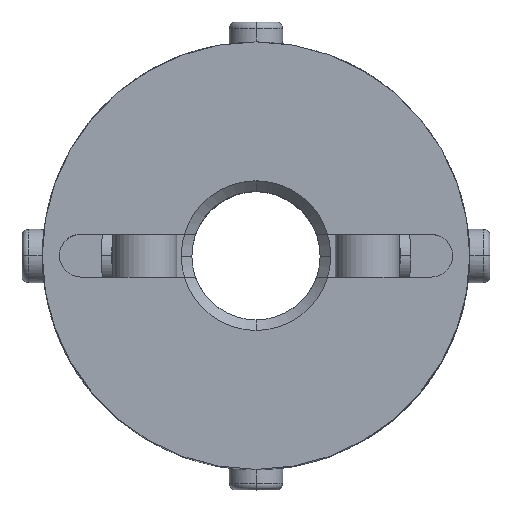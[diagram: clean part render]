
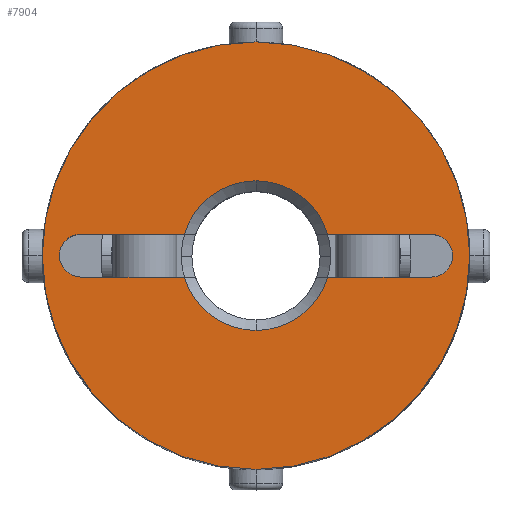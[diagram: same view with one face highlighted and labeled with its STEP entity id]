
A CAD part, top view. The second image highlights one B-rep face of the part: STEP entity #7904.
In plain terms, the highlighted planar face has unit normal (0, 0, 1).
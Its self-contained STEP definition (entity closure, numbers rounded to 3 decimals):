
#633=CARTESIAN_POINT('',(-8.907,-0.707,10.0));
#634=VERTEX_POINT('',#633);
#650=CARTESIAN_POINT('',(-8.2,1.,10.0));
#651=VERTEX_POINT('',#650);
#658=CARTESIAN_POINT('',(-8.2,0.,10.0));
#659=DIRECTION('',(0.0,0.0,1.0));
#660=DIRECTION('',(-0.707,0.707,0.0));
#661=AXIS2_PLACEMENT_3D('',#658,#659,#660);
#662=CIRCLE('',#661,1.);
#663=EDGE_CURVE('',#651,#634,#662,.T.);
#675=CARTESIAN_POINT('',(8.907,0.707,10.0));
#676=VERTEX_POINT('',#675);
#692=CARTESIAN_POINT('',(8.2,-1.,10.0));
#693=VERTEX_POINT('',#692);
#700=CARTESIAN_POINT('',(8.2,0.,10.0));
#701=DIRECTION('',(0.0,0.0,1.0));
#702=DIRECTION('',(0.707,-0.707,0.0));
#703=AXIS2_PLACEMENT_3D('',#700,#701,#702);
#704=CIRCLE('',#703,1.0);
#705=EDGE_CURVE('',#693,#676,#704,.T.);
#715=CARTESIAN_POINT('',(0.,-3.5,10.0));
#716=VERTEX_POINT('',#715);
#724=CARTESIAN_POINT('',(-3.354,-1.,10.0));
#725=VERTEX_POINT('',#724);
#739=CARTESIAN_POINT('',(0.,0.,10.0));
#740=DIRECTION('',(0.0,0.0,1.0));
#741=DIRECTION('',(0.0,-1.0,0.0));
#742=AXIS2_PLACEMENT_3D('',#739,#740,#741);
#743=CIRCLE('',#742,3.5);
#744=EDGE_CURVE('',#725,#716,#743,.T.);
#756=CARTESIAN_POINT('',(0.,3.5,10.0));
#757=VERTEX_POINT('',#756);
#773=CARTESIAN_POINT('',(3.354,1.,10.0));
#774=VERTEX_POINT('',#773);
#788=CARTESIAN_POINT('',(0.,0.,10.0));
#789=DIRECTION('',(0.0,0.0,1.0));
#790=DIRECTION('',(0.0,1.0,0.0));
#791=AXIS2_PLACEMENT_3D('',#788,#789,#790);
#792=CIRCLE('',#791,3.5);
#793=EDGE_CURVE('',#774,#757,#792,.T.);
#1385=CARTESIAN_POINT('',(0.,-10.0,10.0));
#1386=VERTEX_POINT('',#1385);
#1393=CARTESIAN_POINT('',(0.,10.0,10.0));
#1394=VERTEX_POINT('',#1393);
#1395=CARTESIAN_POINT('',(0.0,0.0,10.0));
#1396=DIRECTION('',(0.0,0.0,-1.0));
#1397=DIRECTION('',(0.0,1.0,0.0));
#1398=AXIS2_PLACEMENT_3D('',#1395,#1396,#1397);
#1399=CIRCLE('',#1398,10.0);
#1400=EDGE_CURVE('',#1386,#1394,#1399,.T.);
#7211=CARTESIAN_POINT('',(0.0,0.0,10.0));
#7212=DIRECTION('',(0.0,0.0,-1.0));
#7213=DIRECTION('',(0.0,1.0,0.0));
#7214=AXIS2_PLACEMENT_3D('',#7211,#7212,#7213);
#7215=CIRCLE('',#7214,10.0);
#7216=EDGE_CURVE('',#1394,#1386,#7215,.T.);
#7700=CARTESIAN_POINT('',(3.354,-1.,10.0));
#7701=VERTEX_POINT('',#7700);
#7715=CARTESIAN_POINT('',(8.2,-1.,10.0));
#7716=DIRECTION('',(-1.0,0.0,0.0));
#7717=VECTOR('',#7716,4.846);
#7718=LINE('',#7715,#7717);
#7719=EDGE_CURVE('',#693,#7701,#7718,.T.);
#7778=CARTESIAN_POINT('',(8.2,1.,10.0));
#7779=VERTEX_POINT('',#7778);
#7786=CARTESIAN_POINT('',(3.354,1.,10.0));
#7787=DIRECTION('',(1.0,0.0,0.0));
#7788=VECTOR('',#7787,4.846);
#7789=LINE('',#7786,#7788);
#7790=EDGE_CURVE('',#774,#7779,#7789,.T.);
#7807=CARTESIAN_POINT('',(-3.354,1.,10.0));
#7808=VERTEX_POINT('',#7807);
#7809=CARTESIAN_POINT('',(0.,0.,10.0));
#7810=DIRECTION('',(0.0,0.0,1.0));
#7811=DIRECTION('',(0.0,1.0,0.0));
#7812=AXIS2_PLACEMENT_3D('',#7809,#7810,#7811);
#7813=CIRCLE('',#7812,3.5);
#7814=EDGE_CURVE('',#757,#7808,#7813,.T.);
#7841=CARTESIAN_POINT('',(-8.2,1.,10.0));
#7842=DIRECTION('',(1.0,0.0,0.0));
#7843=VECTOR('',#7842,4.846);
#7844=LINE('',#7841,#7843);
#7845=EDGE_CURVE('',#651,#7808,#7844,.T.);
#7856=CARTESIAN_POINT('',(0.,0.909,10.0));
#7857=DIRECTION('',(0.0,0.0,1.0));
#7858=DIRECTION('',(0.0,1.0,0.0));
#7859=AXIS2_PLACEMENT_3D('',#7856,#7857,#7858);
#7860=PLANE('',#7859);
#7861=ORIENTED_EDGE('',*,*,#7216,.F.);
#7862=ORIENTED_EDGE('',*,*,#1400,.F.);
#7863=EDGE_LOOP('',(#7861,#7862));
#7864=FACE_OUTER_BOUND('',#7863,.T.);
#7865=ORIENTED_EDGE('',*,*,#793,.F.);
#7866=ORIENTED_EDGE('',*,*,#7790,.T.);
#7867=CARTESIAN_POINT('',(8.2,0.,10.0));
#7868=DIRECTION('',(0.0,0.0,1.0));
#7869=DIRECTION('',(0.707,-0.707,0.0));
#7870=AXIS2_PLACEMENT_3D('',#7867,#7868,#7869);
#7871=CIRCLE('',#7870,1.0);
#7872=EDGE_CURVE('',#676,#7779,#7871,.T.);
#7873=ORIENTED_EDGE('',*,*,#7872,.F.);
#7874=ORIENTED_EDGE('',*,*,#705,.F.);
#7875=ORIENTED_EDGE('',*,*,#7719,.T.);
#7876=CARTESIAN_POINT('',(0.,0.,10.0));
#7877=DIRECTION('',(0.0,0.0,1.0));
#7878=DIRECTION('',(0.0,-1.0,0.0));
#7879=AXIS2_PLACEMENT_3D('',#7876,#7877,#7878);
#7880=CIRCLE('',#7879,3.5);
#7881=EDGE_CURVE('',#716,#7701,#7880,.T.);
#7882=ORIENTED_EDGE('',*,*,#7881,.F.);
#7883=ORIENTED_EDGE('',*,*,#744,.F.);
#7884=CARTESIAN_POINT('',(-8.2,-1.,10.0));
#7885=VERTEX_POINT('',#7884);
#7886=CARTESIAN_POINT('',(-3.354,-1.,10.0));
#7887=DIRECTION('',(-1.0,0.0,0.0));
#7888=VECTOR('',#7887,4.846);
#7889=LINE('',#7886,#7888);
#7890=EDGE_CURVE('',#725,#7885,#7889,.T.);
#7891=ORIENTED_EDGE('',*,*,#7890,.T.);
#7892=CARTESIAN_POINT('',(-8.2,0.,10.0));
#7893=DIRECTION('',(0.0,0.0,1.0));
#7894=DIRECTION('',(-0.707,0.707,0.0));
#7895=AXIS2_PLACEMENT_3D('',#7892,#7893,#7894);
#7896=CIRCLE('',#7895,1.);
#7897=EDGE_CURVE('',#634,#7885,#7896,.T.);
#7898=ORIENTED_EDGE('',*,*,#7897,.F.);
#7899=ORIENTED_EDGE('',*,*,#663,.F.);
#7900=ORIENTED_EDGE('',*,*,#7845,.T.);
#7901=ORIENTED_EDGE('',*,*,#7814,.F.);
#7902=EDGE_LOOP('',(#7865,#7866,#7873,#7874,#7875,#7882,#7883,#7891,#7898,#7899,#7900,#7901));
#7903=FACE_BOUND('',#7902,.T.);
#7904=ADVANCED_FACE('',(#7864,#7903),#7860,.T.);
